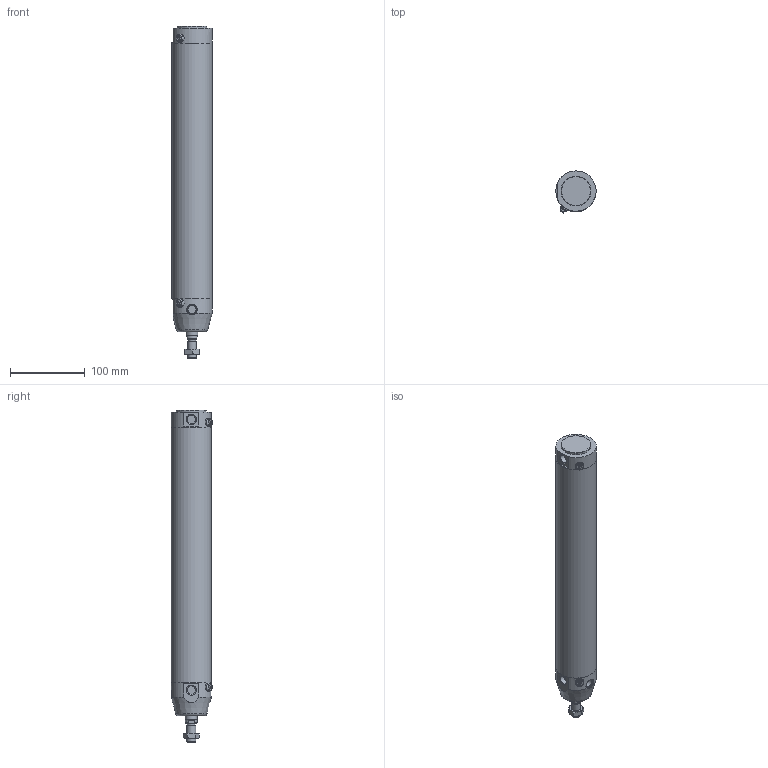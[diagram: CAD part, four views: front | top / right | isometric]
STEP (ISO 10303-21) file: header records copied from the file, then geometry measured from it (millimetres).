
FILE_DESCRIPTION(/* description */ (''),/* implementation_level */ '2;1');
FILE_NAME(/* name */ 'I:\Area Tecnica\Documenti\A-Manieri\_Inventor\12X\12X#E_###_####_#_#\12XBE_050_0300_#_#.stp',/* time_stamp */ '2015-05-08T13:58:14+02:00',/* author */ ('maniean1'),/* organization */ ('Pneumax S.p.A.'),/* preprocessor_version */ 'ST-DEVELOPER v15.2',/* originating_system */ 'Autodesk Inventor 2014',/* authorisation */ '');
FILE_SCHEMA (('AUTOMOTIVE_DESIGN { 1 0 10303 214 3 1 1 }'));
Length unit declared in the file: millimetre
Products named in the file (6): C1250_619-0300; 12X50_623; S12X50_0300; 12X_50_11; 12X50_612; 12XBE_050_0300_#_#
Bounding box: 54 x 55.88 x 445 mm (x, y, z)
Volume: 397746.4 mm3; surface area: 164997.9 mm2
Topology: 5 solids, 5 shells, 83 faces, 174 edges, 112 vertices
Faces by surface type: plane 45, cylinder 22, cone 13, torus 3
Full cylindrical faces by diameter (mm): 5 x2, 10.2 x1, 10.9 x2, 11 x2, 11.4 x2, 12 x2, 14 x1, 14.1 x2, 15.6 x1, 16 x1, 40 x1, 50 x2, 54 x3
Entity records: 2203 total; most frequent: CARTESIAN_POINT 508, DIRECTION 359, ORIENTED_EDGE 254, AXIS2_PLACEMENT_3D 161, EDGE_LOOP 136, EDGE_CURVE 127, VERTEX_POINT 101, ADVANCED_FACE 83
